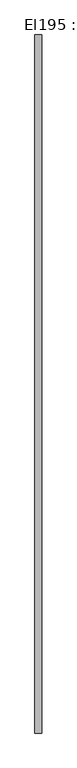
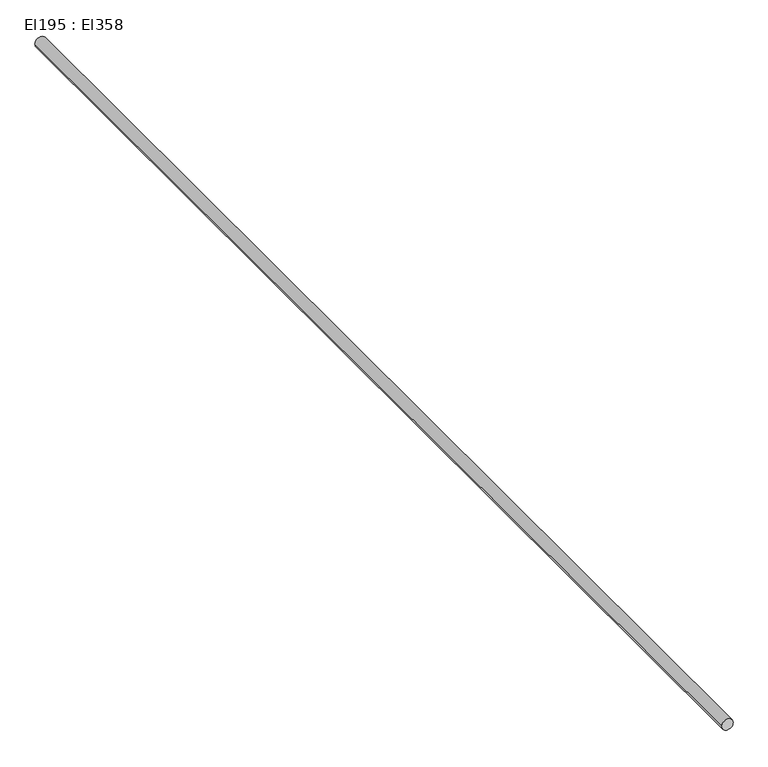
"""IFC4 building model written with IfcOpenShell, lengths in millimetres: cable carrier segment geometry, El195 : El358."""

from ifc_helpers import new_model, si_unit, point, frame, frame_2d, origin, place, context, project, spatial, circle_curve, trimmed, segment, composite_curve, outline, extrude, source, transform, mapped, element, save


def el195_el358_41d8a6ff(model_context):
    return source(origin(), model_context, "Body", "SweptSolid", [
        extrude(outline(composite_curve([segment(trimmed(circle_curve(frame_2d((1500.0, 22017.1746511)), 37.5), [point((1500.0, 21979.6746511))], [point((1500.0, 22054.6746511))], False, "CARTESIAN"), True, "CONTINUOUS"), segment(trimmed(circle_curve(frame_2d((1500.0, 22017.1746511)), 37.5), [point((1500.0, 22054.6746511))], [point((1500.0, 21979.6746511))], False, "CARTESIAN"), True, "CONTINUOUS")], self_intersect=False)), frame((0.0, -2934.3178255, 0.0), z_axis=(0.0, 1.0, 0.0), x_axis=(0.0, 0.0, 1.0)), (0.0, 0.0, 1.0), 7834.97),
    ])


if __name__ == "__main__":
    model = new_model("IFC4")
    model_context = context("Model", 3, world=origin())
    ifc_project = project(units=[si_unit("LENGTHUNIT", "METRE", prefix="MILLI")], contexts=[model_context])
    site = spatial("IfcSite", under=ifc_project)
    building = spatial("IfcBuilding", under=site)
    placement = place(None, origin())
    el195_el358_shape = el195_el358_41d8a6ff(model_context)
    element("IfcCableCarrierSegment", 1, ObjectType="El195 : El358", at=placement, inside=building, context=model_context, shape_type="MappedRepresentation", body=[
        mapped(el195_el358_shape, transform((0.0, 0.0, 0.0), x_axis=(1.0, 0.0, 0.0), y_axis=(0.0, 1.0, 0.0), z_axis=(0.0, 0.0, 1.0))),
    ])
    save(model, "model.ifc")
